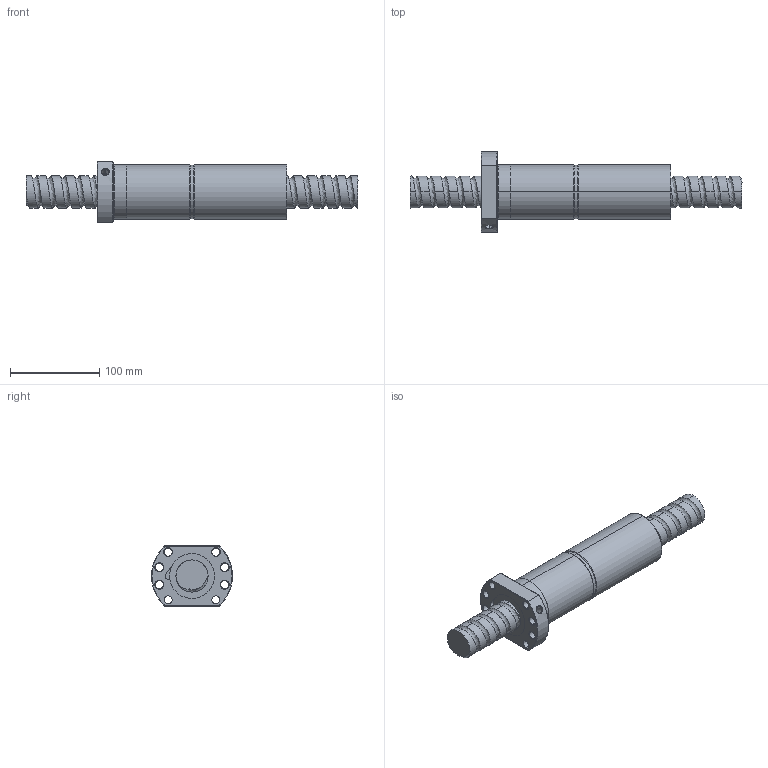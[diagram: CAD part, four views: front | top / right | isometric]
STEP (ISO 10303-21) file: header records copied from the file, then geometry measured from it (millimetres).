
FILE_DESCRIPTION (( 'STEP AP214' ), '1' );
FILE_NAME ('FDDC03616T5-F-C.STEP', '2010-07-06T05:35:40', ( 'XPAUTO' ), ( 'XPAUTO' ), 'SwSTEP 2.0', 'SolidWorks 2007', '' );
FILE_SCHEMA (( 'AUTOMOTIVE_DESIGN' ));
Length unit declared in the file: millimetre
Products named in the file (3): FDDC03616T5-F-C; FDDC03616T5-F-C.sldasm-Part-2_預設; FDDC03616T5-F-C.sldasm-Part-1_預設
Assembly tree (2 placements, depth 2):
  FDDC03616T5-F-C
    FDDC03616T5-F-C.sldasm-Part-2_預設
    FDDC03616T5-F-C.sldasm-Part-1_預設
Bounding box: 373 x 91 x 68 mm (x, y, z)
Volume: 787337 mm3; surface area: 128037 mm2
Topology: 2 solids, 2 shells, 156 faces, 394 edges, 247 vertices
Faces by surface type: cylinder 94, cone 24, plane 23, torus 10, bspline 5
Entity records: 31487 total; most frequent: CARTESIAN_POINT 27774, ORIENTED_EDGE 788, DIRECTION 714, EDGE_CURVE 394, AXIS2_PLACEMENT_3D 289, VERTEX_POINT 247, EDGE_LOOP 181, FACE_OUTER_BOUND 156
